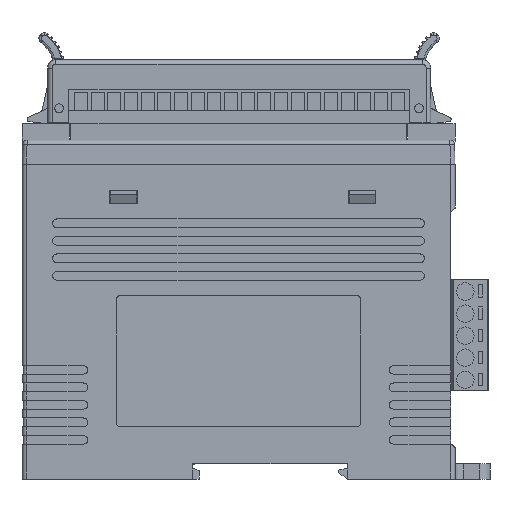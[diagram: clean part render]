
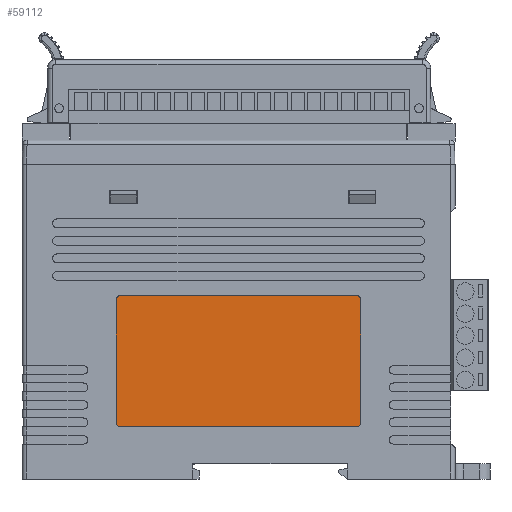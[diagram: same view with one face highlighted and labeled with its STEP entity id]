
A CAD part, left-side view. The second image highlights one B-rep face of the part: STEP entity #59112.
In plain terms, the highlighted planar face has unit normal (-1, 0, 0).
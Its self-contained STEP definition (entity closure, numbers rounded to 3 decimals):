
#1214 = EDGE_CURVE ( 'NONE', #69780, #3531, #51461, .T. ) ;
#3531 = VERTEX_POINT ( 'NONE', #41446 ) ;
#5086 = CARTESIAN_POINT ( 'NONE',  ( -15.85, -28., -31. ) ) ;
#5204 = EDGE_CURVE ( 'NONE', #38392, #10661, #14565, .T. ) ;
#5605 = VECTOR ( 'NONE', #35920, 1000. ) ;
#5893 = VERTEX_POINT ( 'NONE', #48028 ) ;
#6084 = EDGE_LOOP ( 'NONE', ( #28393, #7789, #15878, #7929, #69363, #67478, #43925, #15758 ) ) ;
#6304 = EDGE_CURVE ( 'NONE', #48930, #69780, #26815, .T. ) ;
#6533 = LINE ( 'NONE', #58851, #65023 ) ;
#7305 = EDGE_CURVE ( 'NONE', #64651, #5893, #23436, .T. ) ;
#7318 = EDGE_CURVE ( 'NONE', #5893, #48930, #6533, .T. ) ;
#7789 = ORIENTED_EDGE ( 'NONE', *, *, #32038, .F. ) ;
#7929 = ORIENTED_EDGE ( 'NONE', *, *, #41401, .F. ) ;
#8562 = CARTESIAN_POINT ( 'NONE',  ( -15.85, 27., -30. ) ) ;
#10593 = DIRECTION ( 'NONE',  ( -1., 0., 0. ) ) ;
#10661 = VERTEX_POINT ( 'NONE', #30832 ) ;
#11134 = AXIS2_PLACEMENT_3D ( 'NONE', #24974, #64515, #30601 ) ;
#13548 = DIRECTION ( 'NONE',  ( 0., 1., 0. ) ) ;
#14565 = CIRCLE ( 'NONE', #65584, 1. ) ;
#15758 = ORIENTED_EDGE ( 'NONE', *, *, #1214, .T. ) ;
#15878 = ORIENTED_EDGE ( 'NONE', *, *, #5204, .T. ) ;
#16048 = PLANE ( 'NONE',  #50942 ) ;
#16073 = EDGE_CURVE ( 'NONE', #3531, #34972, #16520, .T. ) ;
#16462 = CARTESIAN_POINT ( 'NONE',  ( -15.85, -27., -60. ) ) ;
#16520 = CIRCLE ( 'NONE', #67092, 1. ) ;
#16819 = AXIS2_PLACEMENT_3D ( 'NONE', #55251, #21411, #60936 ) ;
#21411 = DIRECTION ( 'NONE',  ( -1., 0., 0. ) ) ;
#22260 = CARTESIAN_POINT ( 'NONE',  ( -15.85, -28., -31. ) ) ;
#23072 = CARTESIAN_POINT ( 'NONE',  ( -15.85, 27., -60. ) ) ;
#23436 = CIRCLE ( 'NONE', #11134, 1. ) ;
#24381 = DIRECTION ( 'NONE',  ( -1., 0., 0. ) ) ;
#24974 = CARTESIAN_POINT ( 'NONE',  ( -15.85, -27., -31. ) ) ;
#26544 = VECTOR ( 'NONE', #56123, 1000. ) ;
#26815 = CIRCLE ( 'NONE', #16819, 1. ) ;
#28393 = ORIENTED_EDGE ( 'NONE', *, *, #16073, .T. ) ;
#29324 = DIRECTION ( 'NONE',  ( -1., 0., 0. ) ) ;
#30212 = CARTESIAN_POINT ( 'NONE',  ( -15.85, -27., -60. ) ) ;
#30601 = DIRECTION ( 'NONE',  ( 0., 0., -1. ) ) ;
#30832 = CARTESIAN_POINT ( 'NONE',  ( -15.85, -28., -59. ) ) ;
#32038 = EDGE_CURVE ( 'NONE', #38392, #34972, #50861, .T. ) ;
#34972 = VERTEX_POINT ( 'NONE', #23072 ) ;
#35920 = DIRECTION ( 'NONE',  ( 0., 1., 0. ) ) ;
#38186 = VECTOR ( 'NONE', #41833, 1000. ) ;
#38392 = VERTEX_POINT ( 'NONE', #16462 ) ;
#39635 = FACE_OUTER_BOUND ( 'NONE', #6084, .T. ) ;
#41401 = EDGE_CURVE ( 'NONE', #64651, #10661, #71701, .T. ) ;
#41446 = CARTESIAN_POINT ( 'NONE',  ( -15.85, 28., -59. ) ) ;
#41833 = DIRECTION ( 'NONE',  ( 0., 0., -1. ) ) ;
#43925 = ORIENTED_EDGE ( 'NONE', *, *, #6304, .T. ) ;
#48028 = CARTESIAN_POINT ( 'NONE',  ( -15.85, -27., -30. ) ) ;
#48930 = VERTEX_POINT ( 'NONE', #8562 ) ;
#50212 = DIRECTION ( 'NONE',  ( 0., 0., -1. ) ) ;
#50861 = LINE ( 'NONE', #30212, #5605 ) ;
#50942 = AXIS2_PLACEMENT_3D ( 'NONE', #66995, #10593, #50212 ) ;
#51461 = LINE ( 'NONE', #64304, #38186 ) ;
#55251 = CARTESIAN_POINT ( 'NONE',  ( -15.85, 27., -31. ) ) ;
#55422 = CARTESIAN_POINT ( 'NONE',  ( -15.85, 28., -31. ) ) ;
#56123 = DIRECTION ( 'NONE',  ( 0., 0., -1. ) ) ;
#58263 = CARTESIAN_POINT ( 'NONE',  ( -15.85, -27., -59. ) ) ;
#58851 = CARTESIAN_POINT ( 'NONE',  ( -15.85, -27., -30. ) ) ;
#59112 = ADVANCED_FACE ( 'NONE', ( #39635 ), #16048, .T. ) ;
#60936 = DIRECTION ( 'NONE',  ( 0., 0., -1. ) ) ;
#63230 = CARTESIAN_POINT ( 'NONE',  ( -15.85, 27., -59. ) ) ;
#63945 = DIRECTION ( 'NONE',  ( 0., 0., -1. ) ) ;
#64304 = CARTESIAN_POINT ( 'NONE',  ( -15.85, 28., -31. ) ) ;
#64515 = DIRECTION ( 'NONE',  ( -1., 0., 0. ) ) ;
#64651 = VERTEX_POINT ( 'NONE', #22260 ) ;
#65023 = VECTOR ( 'NONE', #13548, 1000. ) ;
#65584 = AXIS2_PLACEMENT_3D ( 'NONE', #58263, #24381, #63945 ) ;
#66995 = CARTESIAN_POINT ( 'NONE',  ( -15.85, -27., -59. ) ) ;
#67092 = AXIS2_PLACEMENT_3D ( 'NONE', #63230, #29324, #68932 ) ;
#67478 = ORIENTED_EDGE ( 'NONE', *, *, #7318, .T. ) ;
#68932 = DIRECTION ( 'NONE',  ( 0., 0., -1. ) ) ;
#69363 = ORIENTED_EDGE ( 'NONE', *, *, #7305, .T. ) ;
#69780 = VERTEX_POINT ( 'NONE', #55422 ) ;
#71701 = LINE ( 'NONE', #5086, #26544 ) ;
